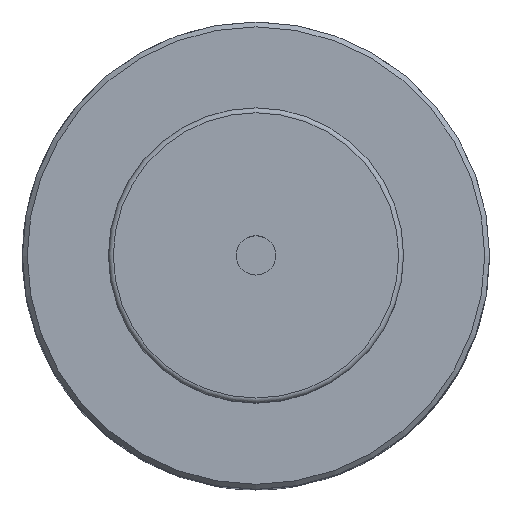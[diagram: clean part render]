
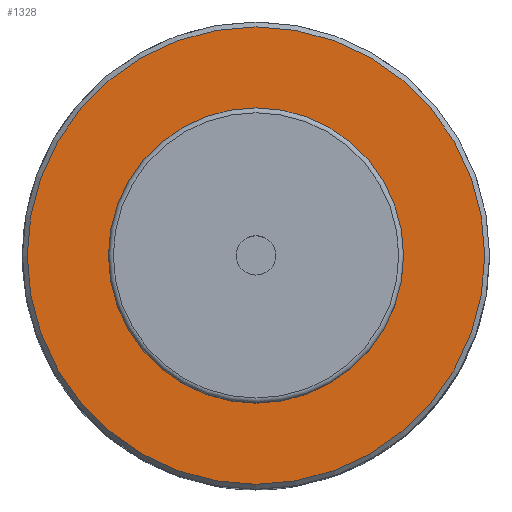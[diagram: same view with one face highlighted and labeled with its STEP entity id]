
A CAD part, top view. The second image highlights one B-rep face of the part: STEP entity #1328.
In plain terms, the highlighted planar face has unit normal (0, 0, 1).
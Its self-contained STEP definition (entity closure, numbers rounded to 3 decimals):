
#1308 = VERTEX_POINT('',#1309);
#1309 = CARTESIAN_POINT('',(46.5,0.,86.));
#1317 = EDGE_CURVE('',#1308,#1308,#1318,.T.);
#1318 = CIRCLE('',#1319,46.5);
#1319 = AXIS2_PLACEMENT_3D('',#1320,#1321,#1322);
#1320 = CARTESIAN_POINT('',(0.,0.,86.));
#1321 = DIRECTION('',(0.,0.,1.));
#1322 = DIRECTION('',(1.,0.,-0.));
#1328 = ADVANCED_FACE('',(#1329),#1332,.T.);
#1329 = FACE_BOUND('',#1330,.T.);
#1330 = EDGE_LOOP('',(#1331));
#1331 = ORIENTED_EDGE('',*,*,#1317,.T.);
#1332 = PLANE('',#1333);
#1333 = AXIS2_PLACEMENT_3D('',#1334,#1335,#1336);
#1334 = CARTESIAN_POINT('',(0.,0.,86.));
#1335 = DIRECTION('',(0.,0.,1.));
#1336 = DIRECTION('',(1.,0.,-0.));
